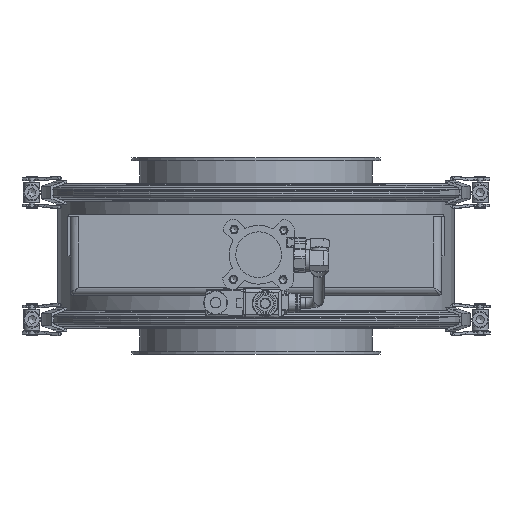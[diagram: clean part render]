
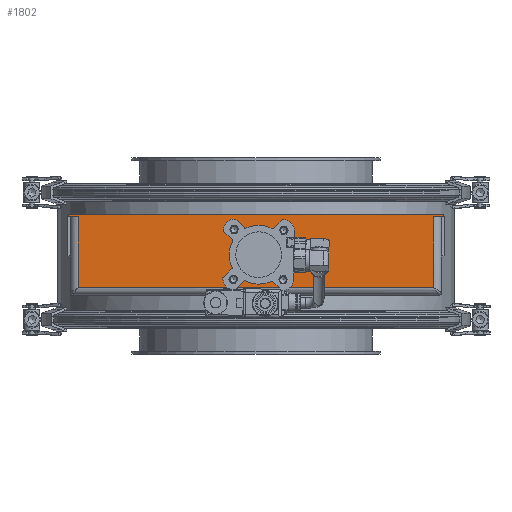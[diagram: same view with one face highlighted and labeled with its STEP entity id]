
A CAD part, left-side view. The second image highlights one B-rep face of the part: STEP entity #1802.
In plain terms, the highlighted planar face has unit normal (-1, 0, 0).
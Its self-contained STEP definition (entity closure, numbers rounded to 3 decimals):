
#859=CARTESIAN_POINT('',(-480.804,-136.,-24.));
#860=VERTEX_POINT('',#859);
#900=CARTESIAN_POINT('',(-480.804,-136.,30.0));
#901=VERTEX_POINT('',#900);
#909=CARTESIAN_POINT('',(-480.804,-136.,30.0));
#910=DIRECTION('',(0.0,0.0,-1.0));
#911=VECTOR('',#910,54.0);
#912=LINE('',#909,#911);
#913=EDGE_CURVE('',#901,#860,#912,.T.);
#965=CARTESIAN_POINT('',(-480.804,136.,-24.));
#966=VERTEX_POINT('',#965);
#990=CARTESIAN_POINT('',(-480.804,-136.,-24.));
#991=DIRECTION('',(0.0,1.0,0.0));
#992=VECTOR('',#991,272.0);
#993=LINE('',#990,#992);
#994=EDGE_CURVE('',#860,#966,#993,.T.);
#1012=CARTESIAN_POINT('',(-480.804,136.,30.0));
#1013=VERTEX_POINT('',#1012);
#1014=CARTESIAN_POINT('',(-480.804,136.,-24.));
#1015=DIRECTION('',(0.0,0.0,1.0));
#1016=VECTOR('',#1015,54.);
#1017=LINE('',#1014,#1016);
#1018=EDGE_CURVE('',#966,#1013,#1017,.T.);
#1261=CARTESIAN_POINT('',(-480.804,17.,-14.25));
#1262=VERTEX_POINT('',#1261);
#1263=CARTESIAN_POINT('',(-480.804,17.,-18.0));
#1264=DIRECTION('',(1.0,0.0,0.0));
#1265=DIRECTION('',(0.0,0.0,1.0));
#1266=AXIS2_PLACEMENT_3D('',#1263,#1264,#1265);
#1267=CIRCLE('',#1266,3.75);
#1268=EDGE_CURVE('',#1262,#1262,#1267,.T.);
#1310=CARTESIAN_POINT('',(-480.804,-21.,23.75));
#1311=VERTEX_POINT('',#1310);
#1312=CARTESIAN_POINT('',(-480.804,-21.,20.0));
#1313=DIRECTION('',(1.0,0.0,0.0));
#1314=DIRECTION('',(0.0,0.0,1.0));
#1315=AXIS2_PLACEMENT_3D('',#1312,#1313,#1314);
#1316=CIRCLE('',#1315,3.75);
#1317=EDGE_CURVE('',#1311,#1311,#1316,.T.);
#1359=CARTESIAN_POINT('',(-480.804,-21.,-14.25));
#1360=VERTEX_POINT('',#1359);
#1361=CARTESIAN_POINT('',(-480.804,-21.,-18.0));
#1362=DIRECTION('',(1.0,0.0,0.0));
#1363=DIRECTION('',(0.0,0.0,1.0));
#1364=AXIS2_PLACEMENT_3D('',#1361,#1362,#1363);
#1365=CIRCLE('',#1364,3.75);
#1366=EDGE_CURVE('',#1360,#1360,#1365,.T.);
#1408=CARTESIAN_POINT('',(-480.804,17.,23.75));
#1409=VERTEX_POINT('',#1408);
#1410=CARTESIAN_POINT('',(-480.804,17.,20.0));
#1411=DIRECTION('',(1.0,0.0,0.0));
#1412=DIRECTION('',(0.0,0.0,1.0));
#1413=AXIS2_PLACEMENT_3D('',#1410,#1411,#1412);
#1414=CIRCLE('',#1413,3.75);
#1415=EDGE_CURVE('',#1409,#1409,#1414,.T.);
#1457=CARTESIAN_POINT('',(-480.804,-2.,19.5));
#1458=VERTEX_POINT('',#1457);
#1459=CARTESIAN_POINT('',(-480.804,-2.,1.));
#1460=DIRECTION('',(1.0,0.0,0.0));
#1461=DIRECTION('',(0.0,0.0,1.0));
#1462=AXIS2_PLACEMENT_3D('',#1459,#1460,#1461);
#1463=CIRCLE('',#1462,18.5);
#1464=EDGE_CURVE('',#1458,#1458,#1463,.T.);
#1505=CARTESIAN_POINT('',(-480.804,144.,30.0));
#1506=VERTEX_POINT('',#1505);
#1507=CARTESIAN_POINT('',(-480.804,144.,30.0));
#1508=DIRECTION('',(0.0,-1.0,0.0));
#1509=VECTOR('',#1508,8.);
#1510=LINE('',#1507,#1509);
#1511=EDGE_CURVE('',#1506,#1013,#1510,.T.);
#1709=CARTESIAN_POINT('',(-480.804,-142.,32.0));
#1710=VERTEX_POINT('',#1709);
#1711=CARTESIAN_POINT('',(-480.804,-144.,30.0));
#1712=VERTEX_POINT('',#1711);
#1713=CARTESIAN_POINT('',(-480.804,-142.,30.));
#1714=DIRECTION('',(1.0,0.0,0.0));
#1715=DIRECTION('',(0.0,-0.707,0.707));
#1716=AXIS2_PLACEMENT_3D('',#1713,#1714,#1715);
#1717=CIRCLE('',#1716,2.);
#1718=EDGE_CURVE('',#1710,#1712,#1717,.T.);
#1754=CARTESIAN_POINT('',(-480.804,-144.,30.0));
#1755=DIRECTION('',(-1.0,0.0,0.0));
#1756=DIRECTION('',(0.0,0.0,1.0));
#1757=AXIS2_PLACEMENT_3D('',#1754,#1755,#1756);
#1758=PLANE('',#1757);
#1759=CARTESIAN_POINT('',(-480.804,-136.,30.0));
#1760=DIRECTION('',(0.0,-1.0,0.0));
#1761=VECTOR('',#1760,8.);
#1762=LINE('',#1759,#1761);
#1763=EDGE_CURVE('',#901,#1712,#1762,.T.);
#1764=ORIENTED_EDGE('',*,*,#1763,.T.);
#1765=ORIENTED_EDGE('',*,*,#1718,.F.);
#1766=CARTESIAN_POINT('',(-480.804,142.,32.0));
#1767=VERTEX_POINT('',#1766);
#1768=CARTESIAN_POINT('',(-480.804,-142.,32.0));
#1769=DIRECTION('',(0.0,1.0,0.0));
#1770=VECTOR('',#1769,284.);
#1771=LINE('',#1768,#1770);
#1772=EDGE_CURVE('',#1710,#1767,#1771,.T.);
#1773=ORIENTED_EDGE('',*,*,#1772,.T.);
#1774=CARTESIAN_POINT('',(-480.804,142.,30.));
#1775=DIRECTION('',(1.0,0.0,0.0));
#1776=DIRECTION('',(0.0,0.707,0.707));
#1777=AXIS2_PLACEMENT_3D('',#1774,#1775,#1776);
#1778=CIRCLE('',#1777,2.);
#1779=EDGE_CURVE('',#1506,#1767,#1778,.T.);
#1780=ORIENTED_EDGE('',*,*,#1779,.F.);
#1781=ORIENTED_EDGE('',*,*,#1511,.T.);
#1782=ORIENTED_EDGE('',*,*,#1018,.F.);
#1783=ORIENTED_EDGE('',*,*,#994,.F.);
#1784=ORIENTED_EDGE('',*,*,#913,.F.);
#1785=EDGE_LOOP('',(#1764,#1765,#1773,#1780,#1781,#1782,#1783,#1784));
#1786=FACE_OUTER_BOUND('',#1785,.T.);
#1787=ORIENTED_EDGE('',*,*,#1268,.T.);
#1788=EDGE_LOOP('',(#1787));
#1789=FACE_BOUND('',#1788,.T.);
#1790=ORIENTED_EDGE('',*,*,#1317,.T.);
#1791=EDGE_LOOP('',(#1790));
#1792=FACE_BOUND('',#1791,.T.);
#1793=ORIENTED_EDGE('',*,*,#1366,.T.);
#1794=EDGE_LOOP('',(#1793));
#1795=FACE_BOUND('',#1794,.T.);
#1796=ORIENTED_EDGE('',*,*,#1415,.T.);
#1797=EDGE_LOOP('',(#1796));
#1798=FACE_BOUND('',#1797,.T.);
#1799=ORIENTED_EDGE('',*,*,#1464,.T.);
#1800=EDGE_LOOP('',(#1799));
#1801=FACE_BOUND('',#1800,.T.);
#1802=ADVANCED_FACE('',(#1786,#1789,#1792,#1795,#1798,#1801),#1758,.T.);
